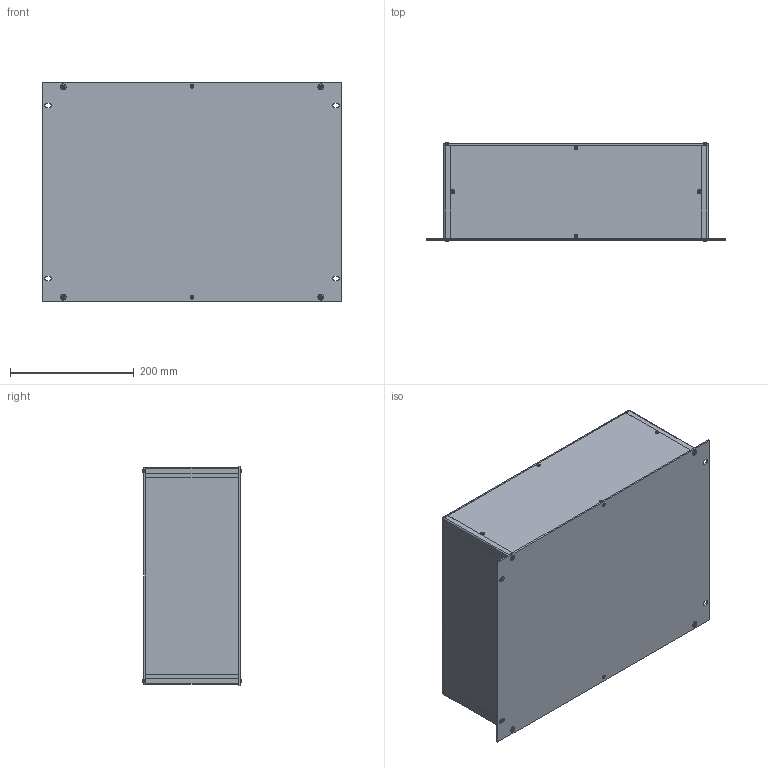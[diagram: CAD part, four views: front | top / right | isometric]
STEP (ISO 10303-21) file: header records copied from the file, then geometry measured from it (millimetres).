
FILE_DESCRIPTION(/* description */ (''),/* implementation_level */ '2;1');
FILE_NAME(/* name */ '//diskstation/Kunden/Gehäuse/Gehäuse/8HE/step/19 Zoll 8HE Rack Gehäuse Tiefe-150.step',/* time_stamp */ '2022-02-17T17:18:16+01:00',/* author */ (''),/* organization */ (''),/* preprocessor_version */ 'ST-DEVELOPER v18.1',/* originating_system */ 'Autodesk Translation Framework v10.10.0.1391',/* authorisation */ '');
FILE_SCHEMA (('AUTOMOTIVE_DESIGN { 1 0 10303 214 3 1 1 }'));
Length unit declared in the file: millimetre
Products named in the file (28): 8HE Gehäuse mit parametern; Gehäuse; Gehäuseprofil 1 unten links; Gehäuseprofil 2 oben rechts; Gehäuseprofil 1 unten rechts; Gehäuseprofil 2 oben links; Rückplatte; Deckel; Seitenteil links; Seitenteil rechts; Bodenplatte; Montageklotz Front/Deckel; Montageklotz Front/Boden; Montageklotz Rück/Deckel; Montageklotz Rück/Boden; Gewindestreifen; Frontplatte; Schrauben M5; Schraube Front; Schraube Front (1); Schraube Front (2); Schraube Front (3); Schraube Rück (1); Schraube Rück; Schraube Rück (2); Schraube Rück (3); Schrauben M3; HI_Senkschraube DIN 965 A v2 M3x5 24677.030.005(High)
Assembly tree (37 placements, depth 3):
  8HE Gehäuse mit parametern
    Gehäuse
      Gehäuseprofil 1 unten links
      Gehäuseprofil 2 oben rechts
      Gehäuseprofil 1 unten rechts
      Gehäuseprofil 2 oben links
      Rückplatte
      Deckel
      Seitenteil links
      Seitenteil rechts
      Bodenplatte
      Montageklotz Front/Deckel
      Montageklotz Front/Boden
      Montageklotz Rück/Deckel
      Montageklotz Rück/Boden
      Gewindestreifen  x2
    Frontplatte
    Schrauben M5
      Schraube Front
      Schraube Front (1)
      Schraube Front (2)
      Schraube Front (3)
      Schraube Rück (1)
      Schraube Rück
      Schraube Rück (2)
      Schraube Rück (3)
    Schrauben M3
      HI_Senkschraube DIN 965 A v2 M3x5 24677.030.005(High)  x10
Bounding box: 483 x 158.2 x 354.8 mm (x, y, z)
Volume: 1384899.9 mm3; surface area: 1166462.5 mm2
Topology: 34 solids, 34 shells, 822 faces, 1980 edges, 1226 vertices
Faces by surface type: plane 346, cylinder 296, cone 164, torus 8, bspline 8
Full cylindrical faces by diameter (mm): 2.529 x50, 3 x10, 3.2 x10, 4.234 x40, 5 x8, 5.2 x4, 5.3 x8, 5.6 x10, 9.5 x8
Entity records: 16201 total; most frequent: CARTESIAN_POINT 2982, DIRECTION 2704, ORIENTED_EDGE 2394, EDGE_CURVE 1197, AXIS2_PLACEMENT_3D 1008, VERTEX_POINT 746, LINE 688, VECTOR 688
